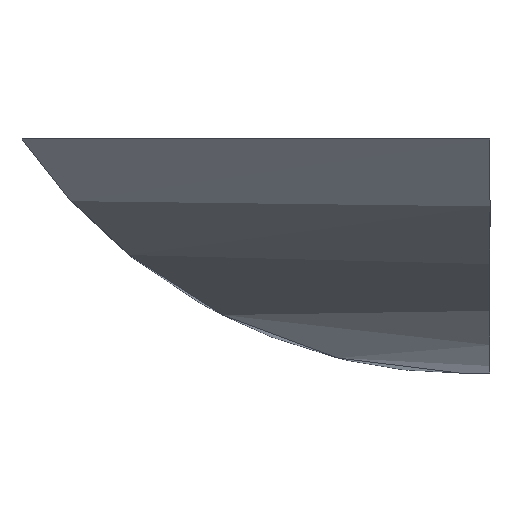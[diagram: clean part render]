
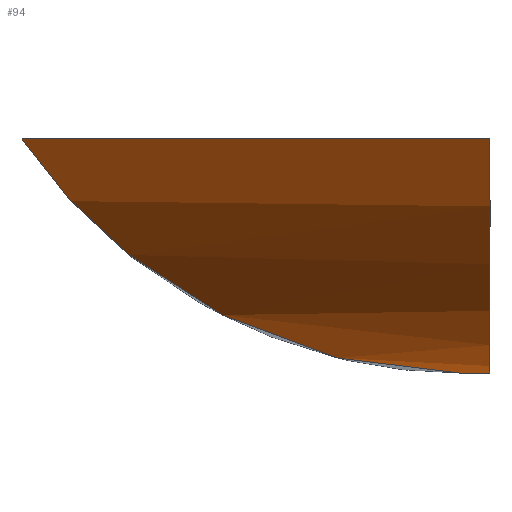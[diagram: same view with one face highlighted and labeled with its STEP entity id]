
A CAD part, left-side view. The second image highlights one B-rep face of the part: STEP entity #94.
In plain terms, the highlighted cylindrical face has radius 0.45 mm (diameter 0.9 mm), a partial arc.
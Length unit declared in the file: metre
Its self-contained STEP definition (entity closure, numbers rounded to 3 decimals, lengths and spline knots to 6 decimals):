
#15=B_SPLINE_CURVE_WITH_KNOTS('',3,(#146,#147,#148,#149),.UNSPECIFIED.,
 .F.,.F.,(4,4),(270.,326.251011),.UNSPECIFIED.);
#17=LINE('',#144,#25);
#18=LINE('',#151,#26);
#25=VECTOR('',#119,1.);
#26=VECTOR('',#120,1.);
#33=ORIENTED_EDGE('',*,*,#57,.F.);
#34=ORIENTED_EDGE('',*,*,#58,.T.);
#35=ORIENTED_EDGE('',*,*,#59,.F.);
#36=ORIENTED_EDGE('',*,*,#60,.F.);
#57=EDGE_CURVE('',#69,#70,#77,.T.);
#58=EDGE_CURVE('',#69,#71,#17,.F.);
#59=EDGE_CURVE('',#72,#71,#15,.T.);
#60=EDGE_CURVE('',#70,#72,#18,.F.);
#69=VERTEX_POINT('',#142);
#70=VERTEX_POINT('',#143);
#71=VERTEX_POINT('',#145);
#72=VERTEX_POINT('',#150);
#77=CIRCLE('',#106,0.00045);
#79=EDGE_LOOP('',(#33,#34,#35,#36));
#85=FACE_BOUND('',#79,.T.);
#91=CYLINDRICAL_SURFACE('',#105,0.00045);
#94=ADVANCED_FACE('',(#85),#91,.T.);
#105=AXIS2_PLACEMENT_3D('',#140,#115,#116);
#106=AXIS2_PLACEMENT_3D('',#141,#117,#118);
#115=DIRECTION('',(0.,-1.,0.));
#116=DIRECTION('',(-0.831,0.,-0.556));
#117=DIRECTION('',(0.,-1.,0.));
#118=DIRECTION('',(1.,0.,0.));
#119=DIRECTION('',(0.,-1.,0.));
#120=DIRECTION('',(0.,-1.,0.));
#140=CARTESIAN_POINT('',(0.011872,0.00199,-0.02975));
#141=CARTESIAN_POINT('',(0.011872,0.00199,-0.02975));
#142=CARTESIAN_POINT('',(0.011498,0.00199,-0.03));
#143=CARTESIAN_POINT('',(0.011872,0.00199,-0.0302));
#144=CARTESIAN_POINT('',(0.011498,0.00199,-0.03));
#145=CARTESIAN_POINT('',(0.011498,0.00239,-0.03));
#146=CARTESIAN_POINT('',(0.011872,0.002016,-0.0302));
#147=CARTESIAN_POINT('',(0.011725,0.002163,-0.0302));
#148=CARTESIAN_POINT('',(0.01158,0.002308,-0.030122));
#149=CARTESIAN_POINT('',(0.011498,0.00239,-0.03));
#150=CARTESIAN_POINT('',(0.011872,0.002016,-0.0302));
#151=CARTESIAN_POINT('',(0.011872,0.00019,-0.0302));
